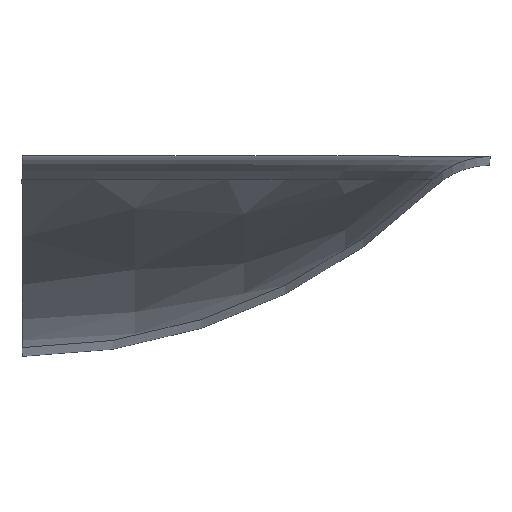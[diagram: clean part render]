
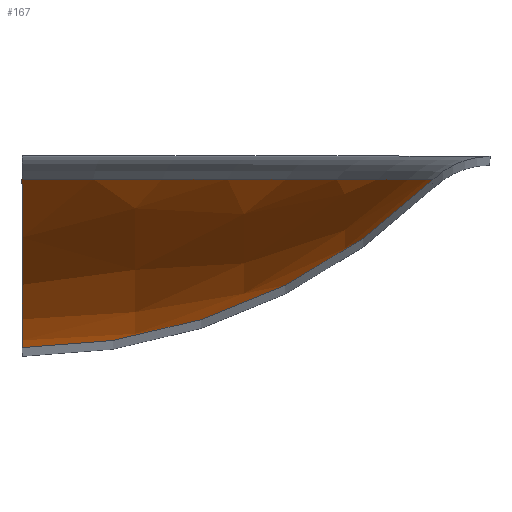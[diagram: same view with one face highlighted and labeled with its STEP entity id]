
A CAD part, top view. The second image highlights one B-rep face of the part: STEP entity #167.
In plain terms, the highlighted spherical face has radius 14.83 mm.
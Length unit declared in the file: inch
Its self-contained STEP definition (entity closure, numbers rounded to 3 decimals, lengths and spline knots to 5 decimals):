
#1 = CARTESIAN_POINT ( 'NONE',  ( -0.2155, -0.02315, 2.5 ) ) ;
#6 = VERTEX_POINT ( 'NONE', #278 ) ;
#38 = FACE_OUTER_BOUND ( 'NONE', #214, .T. ) ;
#42 = DIRECTION ( 'NONE',  ( -1., 0., 0. ) ) ;
#51 = EDGE_CURVE ( 'NONE', #6, #152, #171, .T. ) ;
#79 = DIRECTION ( 'NONE',  ( -1., 0., 0. ) ) ;
#82 = AXIS2_PLACEMENT_3D ( 'NONE', #245, #117, #42 ) ;
#94 = DIRECTION ( 'NONE',  ( 0., -1., 0. ) ) ;
#110 = SPHERICAL_SURFACE ( 'NONE', #146, 0.58384 ) ;
#117 = DIRECTION ( 'NONE',  ( 0., 0., -1. ) ) ;
#127 = CARTESIAN_POINT ( 'NONE',  ( -0.2155, 0.39384, 2.5 ) ) ;
#128 = CARTESIAN_POINT ( 'NONE',  ( 0.19315, -0.02315, 2.5 ) ) ;
#133 = DIRECTION ( 'NONE',  ( 0., 0., 1. ) ) ;
#146 = AXIS2_PLACEMENT_3D ( 'NONE', #249, #181, #160 ) ;
#152 = VERTEX_POINT ( 'NONE', #284 ) ;
#157 = CIRCLE ( 'NONE', #82, 0.58384 ) ;
#160 = DIRECTION ( 'NONE',  ( 0., 0., -1. ) ) ;
#167 = ADVANCED_FACE ( 'NONE', ( #38 ), #110, .T. ) ;
#170 = ORIENTED_EDGE ( 'NONE', *, *, #252, .T. ) ;
#171 = CIRCLE ( 'NONE', #244, 0.58384 ) ;
#172 = ORIENTED_EDGE ( 'NONE', *, *, #51, .F. ) ;
#176 = AXIS2_PLACEMENT_3D ( 'NONE', #1, #94, #187 ) ;
#181 = DIRECTION ( 'NONE',  ( -1., 0., 0. ) ) ;
#182 = EDGE_CURVE ( 'NONE', #272, #6, #157, .T. ) ;
#187 = DIRECTION ( 'NONE',  ( 0., 0., 1. ) ) ;
#202 = CIRCLE ( 'NONE', #176, 0.40865 ) ;
#214 = EDGE_LOOP ( 'NONE', ( #283, #170, #172 ) ) ;
#244 = AXIS2_PLACEMENT_3D ( 'NONE', #127, #79, #133 ) ;
#245 = CARTESIAN_POINT ( 'NONE',  ( -0.2155, 0.39384, 2.5 ) ) ;
#249 = CARTESIAN_POINT ( 'NONE',  ( -0.2155, 0.39384, 2.5 ) ) ;
#252 = EDGE_CURVE ( 'NONE', #272, #152, #202, .T. ) ;
#272 = VERTEX_POINT ( 'NONE', #128 ) ;
#278 = CARTESIAN_POINT ( 'NONE',  ( -0.2155, -0.19, 2.5 ) ) ;
#283 = ORIENTED_EDGE ( 'NONE', *, *, #182, .F. ) ;
#284 = CARTESIAN_POINT ( 'NONE',  ( -0.2155, -0.02315, 2.90865 ) ) ;
